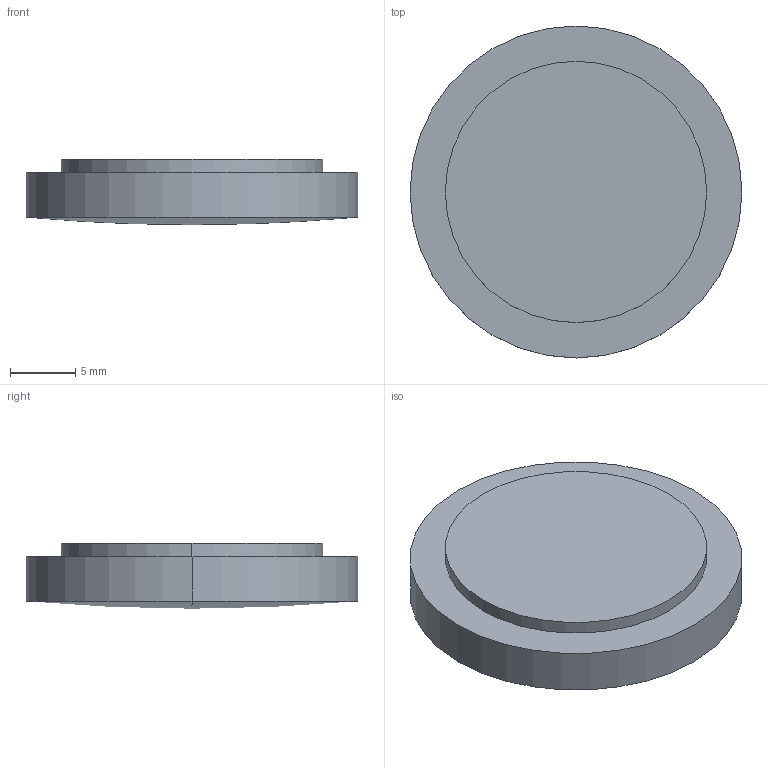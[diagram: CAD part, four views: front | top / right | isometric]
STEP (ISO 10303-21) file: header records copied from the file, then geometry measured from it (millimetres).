
FILE_DESCRIPTION(('STEP AP214'),'1');
FILE_NAME('LLZ-25100.STEP','2020-03-09T17:42:30',(' '),(' '),'Spatial InterOp 3D',' ',' ');
FILE_SCHEMA(('AUTOMOTIVE_DESIGN { 1 0 10303 214 1 1 1 1 }'));
Length unit declared in the file: millimetre
Products named in the file (1): 1
Bounding box: 25.4 x 25.4 x 5 mm (x, y, z)
Volume: 2196.2 mm3; surface area: 1979.2 mm2
Topology: 2 solids, 2 shells, 9 faces, 16 edges, 9 vertices
Faces by surface type: cylinder 4, plane 3, sphere 2
Entity records: 229 total; most frequent: DIRECTION 46, CARTESIAN_POINT 34, ORIENTED_EDGE 28, AXIS2_PLACEMENT_3D 21, EDGE_CURVE 14, CIRCLE 10, ADVANCED_FACE 9, FACE_OUTER_BOUND 9
